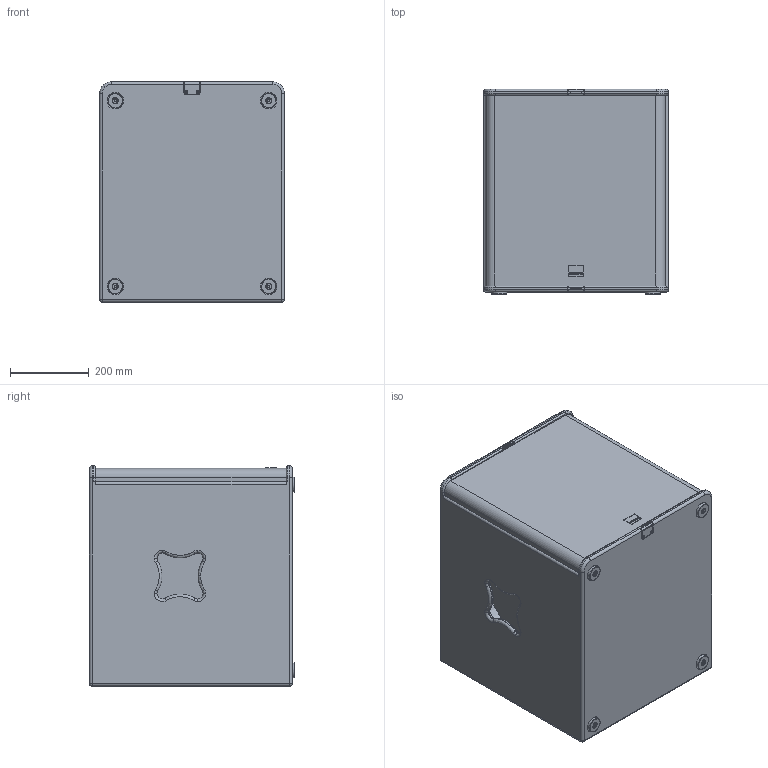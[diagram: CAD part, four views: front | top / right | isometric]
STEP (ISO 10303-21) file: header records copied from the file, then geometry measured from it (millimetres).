
FILE_DESCRIPTION (( 'STEP AP203' ), '1' );
FILE_NAME ('Seeburg_TSM-Sub.STEP', '2012-10-17T11:58:23', ( 'Fabian' ), ( '' ), 'SwSTEP 2.0', 'SolidWorks 2009', '' );
FILE_SCHEMA (( 'CONFIG_CONTROL_DESIGN' ));
Length unit declared in the file: millimetre
Products named in the file (2): TSM-Sub; Seeburg_TSM-Sub
Assembly tree (1 placements, depth 2):
  Seeburg_TSM-Sub
    TSM-Sub
Bounding box: 470 x 521 x 560 mm (x, y, z)
Volume: 26932673.1 mm3; surface area: 3270611.5 mm2
Topology: 19 solids, 19 shells, 612 faces, 1539 edges, 981 vertices
Faces by surface type: cylinder 252, plane 201, torus 112, cone 42, sphere 5
Entity records: 22528 total; most frequent: CARTESIAN_POINT 7392, DIRECTION 3277, ORIENTED_EDGE 3070, EDGE_CURVE 1535, AXIS2_PLACEMENT_3D 1282, VERTEX_POINT 979, VECTOR 713, LINE 713
